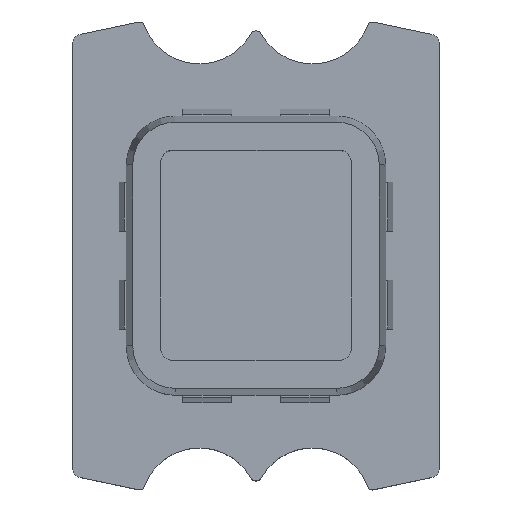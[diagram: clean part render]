
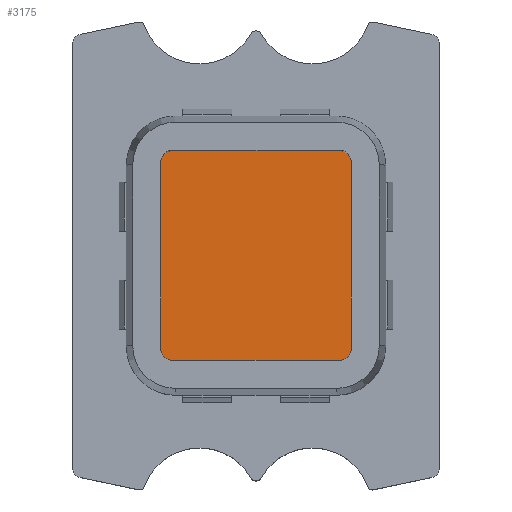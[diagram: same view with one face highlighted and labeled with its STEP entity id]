
A CAD part, top view. The second image highlights one B-rep face of the part: STEP entity #3175.
In plain terms, the highlighted planar face has unit normal (0, 0, 1).
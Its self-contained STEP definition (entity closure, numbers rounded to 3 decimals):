
#35 = DIRECTION ( 'NONE',  ( 0., 0., -1. ) ) ;
#43 = AXIS2_PLACEMENT_3D ( 'NONE', #2583, #2847, #154 ) ;
#65 = LINE ( 'NONE', #2600, #328 ) ;
#88 = ORIENTED_EDGE ( 'NONE', *, *, #3253, .T. ) ;
#154 = DIRECTION ( 'NONE',  ( 1., 0., 0. ) ) ;
#275 = VERTEX_POINT ( 'NONE', #2649 ) ;
#328 = VECTOR ( 'NONE', #443, 1000. ) ;
#352 = DIRECTION ( 'NONE',  ( 0., 1., 0. ) ) ;
#353 = VERTEX_POINT ( 'NONE', #2677 ) ;
#366 = FACE_OUTER_BOUND ( 'NONE', #1575, .T. ) ;
#443 = DIRECTION ( 'NONE',  ( 0., -1., 0. ) ) ;
#499 = ORIENTED_EDGE ( 'NONE', *, *, #1464, .T. ) ;
#526 = EDGE_CURVE ( 'NONE', #3141, #275, #1626, .T. ) ;
#904 = EDGE_CURVE ( 'NONE', #275, #2972, #919, .T. ) ;
#915 = DIRECTION ( 'NONE',  ( 0., 0., 1. ) ) ;
#919 = LINE ( 'NONE', #1701, #1639 ) ;
#1033 = ORIENTED_EDGE ( 'NONE', *, *, #526, .T. ) ;
#1079 = EDGE_CURVE ( 'NONE', #3278, #3141, #2318, .T. ) ;
#1110 = CARTESIAN_POINT ( 'NONE',  ( 3.4, 4.3, -10. ) ) ;
#1129 = EDGE_CURVE ( 'NONE', #3264, #353, #65, .T. ) ;
#1201 = CARTESIAN_POINT ( 'NONE',  ( 3.4, -3.8, -10. ) ) ;
#1374 = CARTESIAN_POINT ( 'NONE',  ( 3.4, -4.3, -10. ) ) ;
#1447 = CARTESIAN_POINT ( 'NONE',  ( -3.4, -4.3, -10. ) ) ;
#1449 = ORIENTED_EDGE ( 'NONE', *, *, #1129, .T. ) ;
#1464 = EDGE_CURVE ( 'NONE', #1655, #2979, #1687, .T. ) ;
#1541 = CARTESIAN_POINT ( 'NONE',  ( -3.4, 3.8, -10. ) ) ;
#1572 = ORIENTED_EDGE ( 'NONE', *, *, #1079, .T. ) ;
#1575 = EDGE_LOOP ( 'NONE', ( #499, #1883, #1449, #88, #1572, #1033, #1757, #1747 ) ) ;
#1626 = CIRCLE ( 'NONE', #3401, 0.5 ) ;
#1639 = VECTOR ( 'NONE', #352, 1000. ) ;
#1654 = PLANE ( 'NONE',  #2776 ) ;
#1655 = VERTEX_POINT ( 'NONE', #1110 ) ;
#1687 = LINE ( 'NONE', #1763, #2704 ) ;
#1701 = CARTESIAN_POINT ( 'NONE',  ( 3.9, 3.8, -10. ) ) ;
#1719 = DIRECTION ( 'NONE',  ( 1., 0., 0. ) ) ;
#1747 = ORIENTED_EDGE ( 'NONE', *, *, #1793, .T. ) ;
#1757 = ORIENTED_EDGE ( 'NONE', *, *, #904, .T. ) ;
#1763 = CARTESIAN_POINT ( 'NONE',  ( -3.4, 4.3, -10. ) ) ;
#1793 = EDGE_CURVE ( 'NONE', #2972, #1655, #2922, .T. ) ;
#1883 = ORIENTED_EDGE ( 'NONE', *, *, #2960, .T. ) ;
#1899 = DIRECTION ( 'NONE',  ( -1., 0., 0. ) ) ;
#2185 = AXIS2_PLACEMENT_3D ( 'NONE', #1541, #2921, #3447 ) ;
#2318 = LINE ( 'NONE', #1447, #3430 ) ;
#2561 = DIRECTION ( 'NONE',  ( -1., 0., 0. ) ) ;
#2583 = CARTESIAN_POINT ( 'NONE',  ( 3.4, 3.8, -10. ) ) ;
#2600 = CARTESIAN_POINT ( 'NONE',  ( -3.9, 3.8, -10. ) ) ;
#2649 = CARTESIAN_POINT ( 'NONE',  ( 3.9, -3.8, -10. ) ) ;
#2677 = CARTESIAN_POINT ( 'NONE',  ( -3.9, -3.8, -10. ) ) ;
#2704 = VECTOR ( 'NONE', #2561, 1000. ) ;
#2776 = AXIS2_PLACEMENT_3D ( 'NONE', #3276, #35, #1899 ) ;
#2798 = DIRECTION ( 'NONE',  ( 1., 0., 0. ) ) ;
#2832 = DIRECTION ( 'NONE',  ( 1., 0., 0. ) ) ;
#2847 = DIRECTION ( 'NONE',  ( 0., 0., 1. ) ) ;
#2863 = CIRCLE ( 'NONE', #2185, 0.5 ) ;
#2921 = DIRECTION ( 'NONE',  ( 0., 0., 1. ) ) ;
#2922 = CIRCLE ( 'NONE', #43, 0.5 ) ;
#2944 = CIRCLE ( 'NONE', #3250, 0.5 ) ;
#2960 = EDGE_CURVE ( 'NONE', #2979, #3264, #2863, .T. ) ;
#2972 = VERTEX_POINT ( 'NONE', #3161 ) ;
#2979 = VERTEX_POINT ( 'NONE', #3177 ) ;
#3032 = CARTESIAN_POINT ( 'NONE',  ( -3.9, 3.8, -10. ) ) ;
#3051 = CARTESIAN_POINT ( 'NONE',  ( -3.4, -3.8, -10. ) ) ;
#3063 = CARTESIAN_POINT ( 'NONE',  ( -3.4, -4.3, -10. ) ) ;
#3141 = VERTEX_POINT ( 'NONE', #1374 ) ;
#3161 = CARTESIAN_POINT ( 'NONE',  ( 3.9, 3.8, -10. ) ) ;
#3175 = ADVANCED_FACE ( 'NONE', ( #366 ), #1654, .F. ) ;
#3177 = CARTESIAN_POINT ( 'NONE',  ( -3.4, 4.3, -10. ) ) ;
#3250 = AXIS2_PLACEMENT_3D ( 'NONE', #3051, #3340, #1719 ) ;
#3253 = EDGE_CURVE ( 'NONE', #353, #3278, #2944, .T. ) ;
#3264 = VERTEX_POINT ( 'NONE', #3032 ) ;
#3276 = CARTESIAN_POINT ( 'NONE',  ( 4.756, 9.367, -10. ) ) ;
#3278 = VERTEX_POINT ( 'NONE', #3063 ) ;
#3340 = DIRECTION ( 'NONE',  ( 0., 0., 1. ) ) ;
#3401 = AXIS2_PLACEMENT_3D ( 'NONE', #1201, #915, #2798 ) ;
#3430 = VECTOR ( 'NONE', #2832, 1000. ) ;
#3447 = DIRECTION ( 'NONE',  ( 1., 0., 0. ) ) ;
